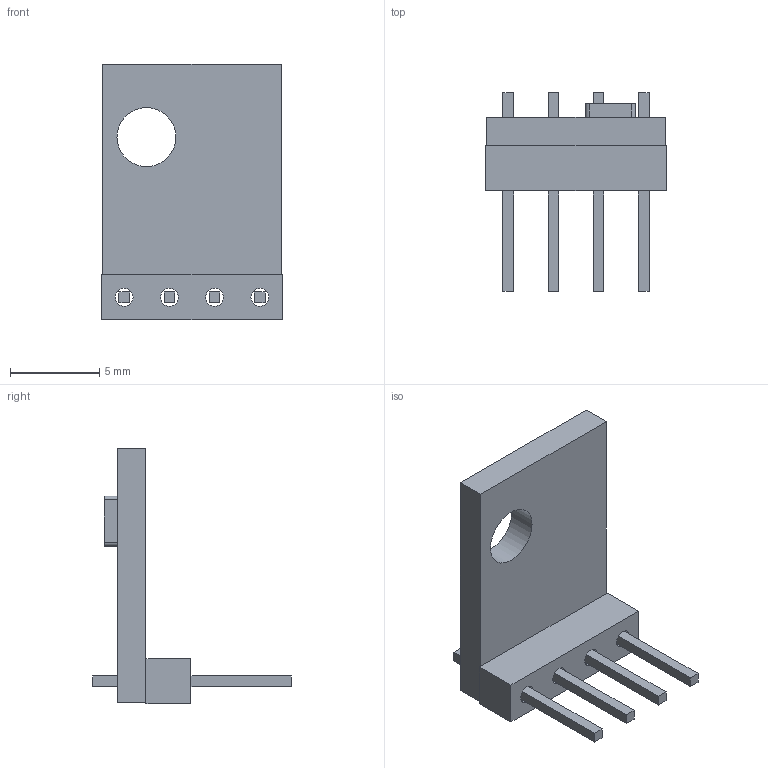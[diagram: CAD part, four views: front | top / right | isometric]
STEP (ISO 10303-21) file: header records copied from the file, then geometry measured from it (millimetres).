
FILE_DESCRIPTION(/* description */ (''),/* implementation_level */ '2;1');
FILE_NAME(/* name */ 'C:/Users/mak/Desktop/乾燥実験/KiCAD/部品図面/AHT20module v2.step',/* time_stamp */ '2022-05-07T20:25:41+09:00',/* author */ (''),/* organization */ (''),/* preprocessor_version */ 'ST-DEVELOPER v18.1',/* originating_system */ 'Autodesk Translation Framework v10.14.0.1471',/* authorisation */ '');
FILE_SCHEMA (('AUTOMOTIVE_DESIGN { 1 0 10303 214 3 1 1 }'));
Length unit declared in the file: millimetre
Products named in the file (1): AHT20module
Bounding box: 10.16 x 11.17 x 14.37 mm (x, y, z)
Volume: 290.4 mm3; surface area: 679.5 mm2
Topology: 14 solids, 14 shells, 207 faces, 516 edges, 344 vertices
Faces by surface type: plane 152, bspline 40, cylinder 15
Full cylindrical faces by diameter (mm): 1 x8, 3.31 x1
Entity records: 6612 total; most frequent: CARTESIAN_POINT 1748, ORIENTED_EDGE 1032, DIRECTION 802, EDGE_CURVE 516, LINE 406, VECTOR 406, VERTEX_POINT 344, EDGE_LOOP 246
